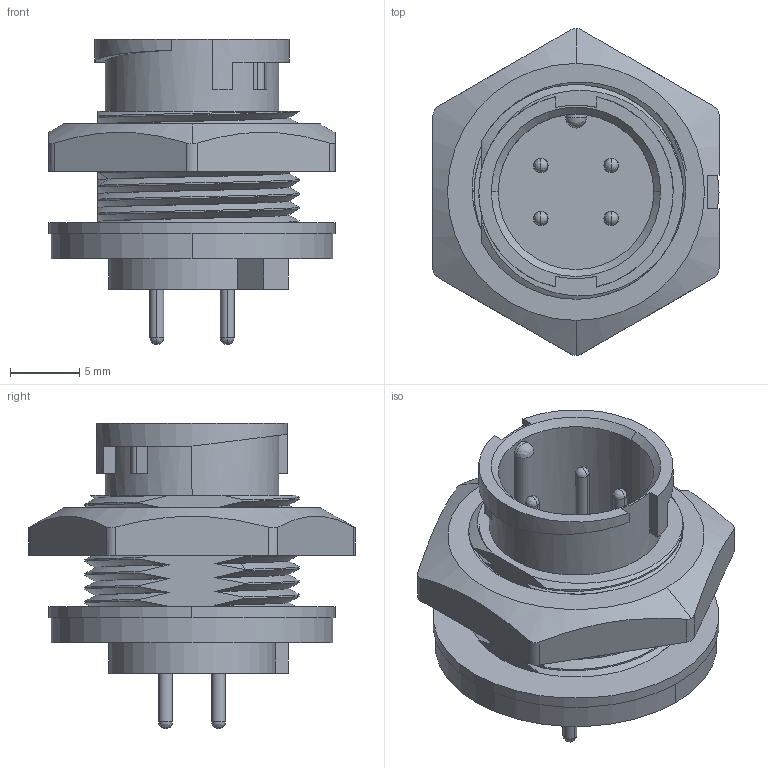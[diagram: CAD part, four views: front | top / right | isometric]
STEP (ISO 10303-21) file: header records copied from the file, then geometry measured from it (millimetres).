
FILE_DESCRIPTION (( 'STEP AP203' ), '1' );
FILE_NAME ('870-04B-113R001.STEP', '2024-06-14T18:47:48', ( '' ), ( '' ), 'SwSTEP 2.0', 'SolidWorks 2020', '' );
FILE_SCHEMA (( 'CONFIG_CONTROL_DESIGN' ));
Length unit declared in the file: millimetre
Products named in the file (1): 870-04B-113R001
Bounding box: 20.6 x 23.54 x 22 mm (x, y, z)
Volume: 2609.1 mm3; surface area: 3468.8 mm2
Topology: 2 solids, 2 shells, 228 faces, 598 edges, 362 vertices
Faces by surface type: cylinder 87, bspline 61, plane 51, cone 29
Entity records: 13010 total; most frequent: CARTESIAN_POINT 7987, ORIENTED_EDGE 1128, DIRECTION 863, EDGE_CURVE 564, VERTEX_POINT 362, AXIS2_PLACEMENT_3D 347, EDGE_LOOP 252, ADVANCED_FACE 228
